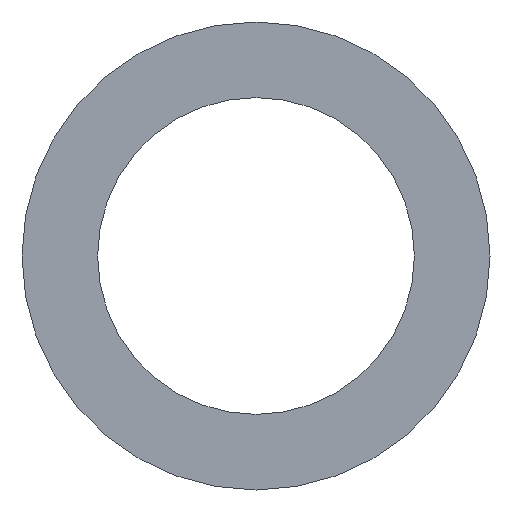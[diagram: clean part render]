
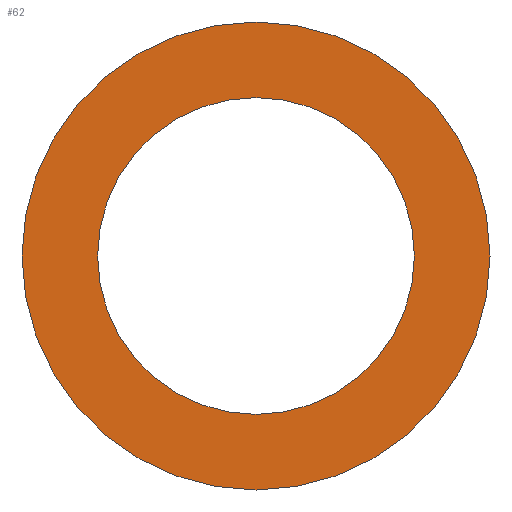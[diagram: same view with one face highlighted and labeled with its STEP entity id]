
A CAD part, front view. The second image highlights one B-rep face of the part: STEP entity #62.
In plain terms, the highlighted planar face has unit normal (0, -1, 0).
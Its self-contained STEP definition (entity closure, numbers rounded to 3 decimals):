
#20=PLANE('',#83);
#26=ORIENTED_EDGE('',*,*,#30,.T.);
#27=ORIENTED_EDGE('',*,*,#32,.F.);
#30=EDGE_CURVE('',#34,#34,#38,.T.);
#32=EDGE_CURVE('',#36,#36,#40,.T.);
#34=VERTEX_POINT('',#106);
#36=VERTEX_POINT('',#111);
#38=CIRCLE('',#78,111.);
#40=CIRCLE('',#81,164.);
#46=EDGE_LOOP('',(#26));
#47=EDGE_LOOP('',(#27));
#54=FACE_BOUND('',#46,.T.);
#55=FACE_BOUND('',#47,.T.);
#62=ADVANCED_FACE('',(#54,#55),#20,.F.);
#78=AXIS2_PLACEMENT_3D('',#105,#89,#90);
#81=AXIS2_PLACEMENT_3D('',#110,#95,#96);
#83=AXIS2_PLACEMENT_3D('',#114,#99,#100);
#89=DIRECTION('',(0.,1.,0.));
#90=DIRECTION('',(1.,0.,0.));
#95=DIRECTION('',(0.,1.,0.));
#96=DIRECTION('',(1.,0.,0.));
#99=DIRECTION('',(0.,1.,0.));
#100=DIRECTION('',(0.,0.,1.));
#105=CARTESIAN_POINT('',(0.,-1.5,0.));
#106=CARTESIAN_POINT('',(111.,-1.5,0.));
#110=CARTESIAN_POINT('',(0.,-1.5,0.));
#111=CARTESIAN_POINT('',(164.,-1.5,0.));
#114=CARTESIAN_POINT('',(0.,-1.5,0.));
